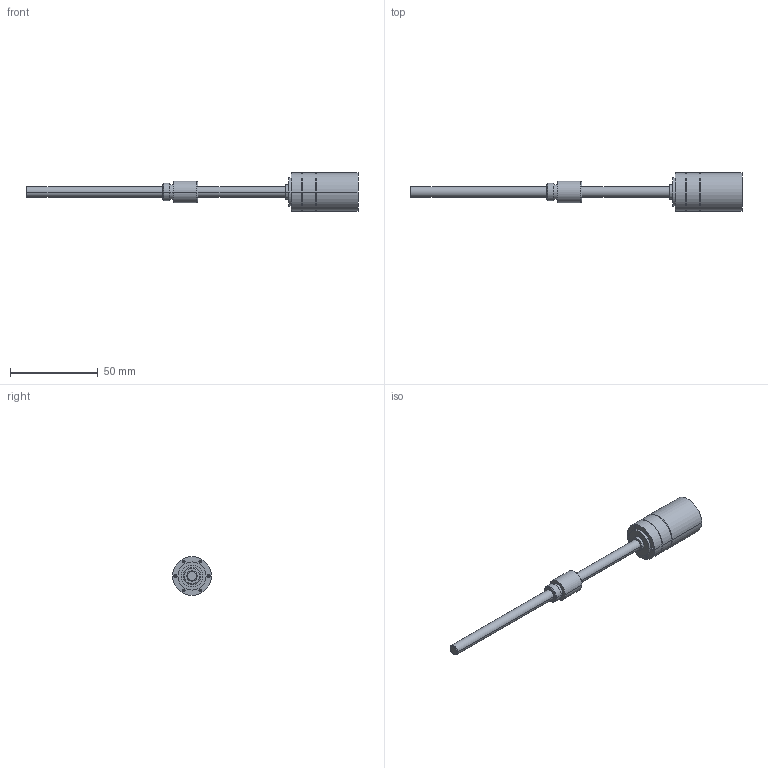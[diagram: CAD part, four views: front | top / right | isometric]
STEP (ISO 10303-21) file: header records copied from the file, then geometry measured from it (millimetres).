
FILE_DESCRIPTION((''),'2;1');
FILE_NAME('363827_GP22S_M-1ST','2016-10-05T',('mmagpetk'),(''),'CREO PARAMETRIC BY PTC INC, 2016050','CREO PARAMETRIC BY PTC INC, 2016050','');
FILE_SCHEMA(('CONFIG_CONTROL_DESIGN'));
Length unit declared in the file: millimetre
Products named in the file (1): 363827_GP22S_M-1ST
Bounding box: 189 x 22 x 22 mm (x, y, z)
Volume: 19758.3 mm3; surface area: 7171.4 mm2
Topology: 1 solids, 1 shells, 70 faces, 150 edges, 84 vertices
Faces by surface type: cylinder 34, cone 26, plane 10
Entity records: 2337 total; most frequent: DIRECTION 356, CARTESIAN_POINT 292, ORIENTED_EDGE 276, AXIS2_PLACEMENT_3D 148, PRESENTATION_STYLE_ASSIGNMENT 139, STYLED_ITEM 139, CURVE_STYLE 138, EDGE_CURVE 138
